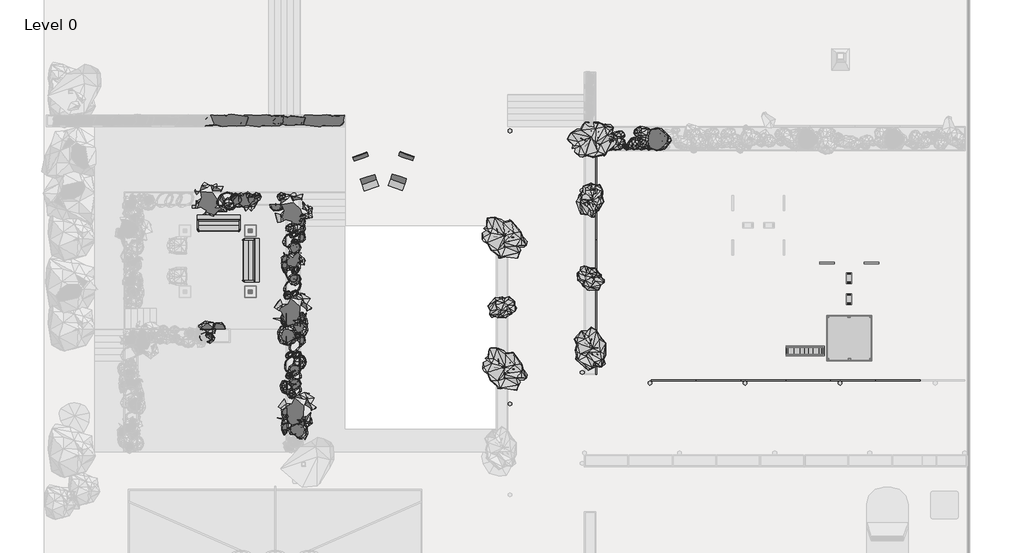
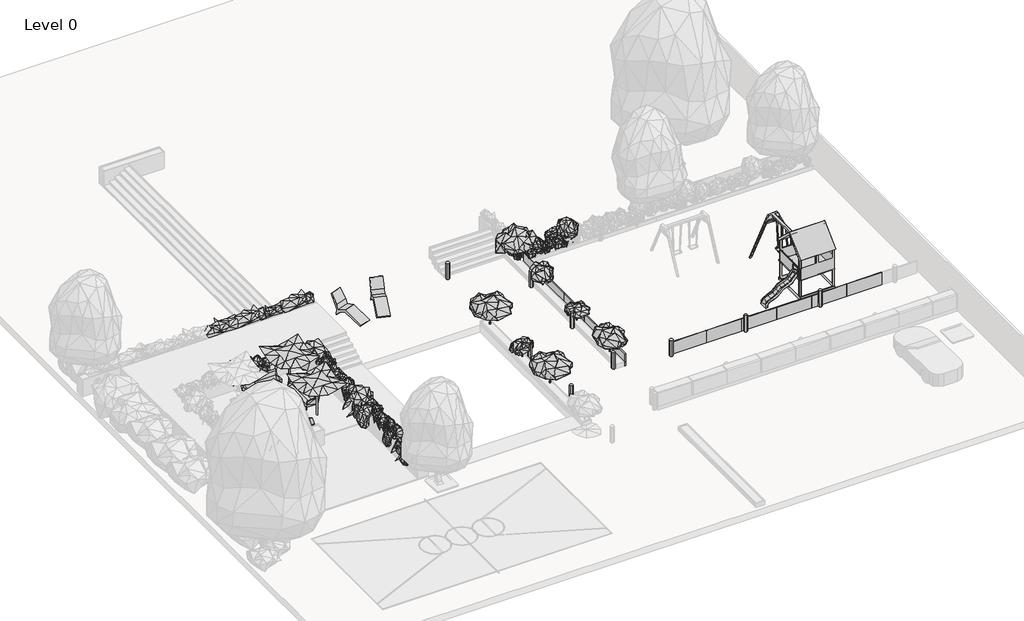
# One storey, part 3 of 4: 112 geographic elements.
"""IFC4 building model written with IfcOpenShell, lengths in millimetres."""

from ifc_helpers import new_model, si_unit, origin, place, context, project, spatial, transform, mapped, element, save
from components import geographic_element_db0a6fd4, geographic_element_18a1116b, geographic_element_f069a1d7, geographic_element_9647795e, geographic_element_b0e9a4e7, geographic_element_ddb3373a, geographic_element_24ad659b, geographic_element_6e40b6ea, geographic_element_a5b1a6e7, geographic_element_4fbb4c08, geographic_element_7a93afb1, geographic_element_6c98dd67, geographic_element_ee225f17, geographic_element_5fc5a5dc, geographic_element_6c620df9, geographic_element_9e3005e0, geographic_element_0ab1632b, geographic_element_002eea6f, geographic_element_5156a3a1, geographic_element_a466647c, geographic_element_3c3fdec1, geographic_element_bd739b93, geographic_element_49e3a4d5, geographic_element_19c87b53, geographic_element_e4e10a39, geographic_element_c9fdac9c, geographic_element_cc1a56ab, geographic_element_ddda1ed9, enscape_assetdefinition_bush_025_fern_enscape_ed9dc602, enscape_assetdefinition_bush_025_fern_enscape_5cccd865, enscape_assetdefinition_bush_025_fern_enscape_c4f5b710, enscape_assetdefinition_fence_005_enscape_assetdefinition_7b85ec42, enscape_assetdefinition_sofa_055_outdoor_enscape_e8bea229

model = new_model("IFC4")

# Units and contexts
model_context = context("Model", 3, world=origin())
ifc_project = project(units=[si_unit("LENGTHUNIT", "METRE", prefix="MILLI")], contexts=[model_context])

# Site, building, storey
site = spatial("IfcSite", under=ifc_project)
building = spatial("IfcBuilding", under=site)
storey = spatial("IfcBuildingStorey", under=building, Name="Level 0", Elevation=0.0)

# Geographic elements
placement = place(None, origin())
geographic_element_shape = geographic_element_db0a6fd4(model_context)
element("IfcGeographicElement", 1, ObjectType="Enscape AssetDefinition - Sunbed 002 : Enscape AssetDefinition - Sunbed 002", at=placement, inside=storey, context=model_context, shape_type="MappedRepresentation", body=[
    mapped(geographic_element_shape, transform((7011.885126, -4118.0511411, 1000.0), x_axis=(0.945518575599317, 0.32556815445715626, 0.0), y_axis=(-0.32556815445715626, 0.945518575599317, 0.0), z_axis=(0.0, 0.0, 1.0))),
])
geographic_element_2_shape = geographic_element_18a1116b(model_context)
element("IfcGeographicElement", 2, ObjectType="Enscape AssetDefinition - Sunshade 002 : Enscape AssetDefinition - Sunshade 002", at=placement, inside=storey, context=model_context, shape_type="MappedRepresentation", body=[
    mapped(geographic_element_2_shape, transform((1942.6806272, -6858.2564752, 100.0), x_axis=(1.0, 0.0, 0.0), y_axis=(0.0, 1.0, 0.0), z_axis=(0.0, 0.0, 1.0))),
])
element("IfcGeographicElement", 3, ObjectType="Enscape AssetDefinition - Sunshade 002 : Enscape AssetDefinition - Sunshade 002", at=placement, inside=storey, context=model_context, shape_type="MappedRepresentation", body=[
    mapped(geographic_element_2_shape, transform((1942.6806272, -9558.2564752, 100.0), x_axis=(1.0, 0.0, 0.0), y_axis=(0.0, 1.0, 0.0), z_axis=(0.0, 0.0, 1.0))),
])
geographic_element_3_shape = geographic_element_f069a1d7(model_context)
element("IfcGeographicElement", 4, ObjectType="Enscape AssetDefinition - Creeper Plant 016 Bower Vine : Enscape AssetDefinition - Creeper Plant 016 Bower Vine", at=placement, inside=storey, context=model_context, shape_type="MappedRepresentation", body=[
    mapped(geographic_element_3_shape, transform((4102.6806272, -6678.2564752, 950.0), x_axis=(0.0, 1.0, 0.0), y_axis=(-1.0, 0.0, 0.0), z_axis=(0.0, 0.0, 1.0))),
])
element("IfcGeographicElement", 5, ObjectType="Enscape AssetDefinition - Creeper Plant 016 Bower Vine : Enscape AssetDefinition - Creeper Plant 016 Bower Vine", at=placement, inside=storey, context=model_context, shape_type="MappedRepresentation", body=[
    mapped(geographic_element_3_shape, transform((3543.1337784, -13818.4130328, 950.0), x_axis=(0.0, -1.0, 0.0), y_axis=(1.0, 0.0, 0.0), z_axis=(0.0, 0.0, 1.0))),
])
geographic_element_4_shape = geographic_element_9647795e(model_context)
element("IfcGeographicElement", 6, ObjectType="Enscape AssetDefinition - Creeper Plant 001 Bower Vine : Enscape AssetDefinition - Creeper Plant 001 Bower Vine", at=placement, inside=storey, context=model_context, shape_type="MappedRepresentation", body=[
    mapped(geographic_element_4_shape, transform((3543.1337784, -10785.5724318, 950.0), x_axis=(0.0, -1.0, 0.0), y_axis=(1.0, 0.0, 0.0), z_axis=(0.0, 0.0, 1.0))),
])
element("IfcGeographicElement", 7, ObjectType="Enscape AssetDefinition - Creeper Plant 001 Bower Vine : Enscape AssetDefinition - Creeper Plant 001 Bower Vine", at=placement, inside=storey, context=model_context, shape_type="MappedRepresentation", body=[
    mapped(geographic_element_4_shape, transform((3593.1337784, -15430.0383331, 950.0), x_axis=(0.0, -1.0, 0.0), y_axis=(1.0, 0.0, 0.0), z_axis=(0.0, 0.0, 1.0))),
])
geographic_element_5_shape = geographic_element_b0e9a4e7(model_context)
element("IfcGeographicElement", 8, ObjectType="Enscape AssetDefinition - Creeper Plant 016 Bower Vine : Enscape AssetDefinition - Creeper Plant 016 Bower Vine 2", at=placement, inside=storey, context=model_context, shape_type="MappedRepresentation", body=[
    mapped(geographic_element_5_shape, transform((4102.6806272, -15678.2564752, 950.0), x_axis=(0.0, 1.0, 0.0), y_axis=(-1.0, 0.0, 0.0), z_axis=(0.0, 0.0, 1.0))),
])
element("IfcGeographicElement", 9, ObjectType="Enscape AssetDefinition - Creeper Plant 016 Bower Vine : Enscape AssetDefinition - Creeper Plant 016 Bower Vine 2", at=placement, inside=storey, context=model_context, shape_type="MappedRepresentation", body=[
    mapped(geographic_element_5_shape, transform((3543.1337784, -11524.7630328, 950.0), x_axis=(0.0, -1.0, 0.0), y_axis=(1.0, 0.0, 0.0), z_axis=(0.0, 0.0, 1.0))),
])
geographic_element_6_shape = geographic_element_ddb3373a(model_context)
element("IfcGeographicElement", 10, ObjectType="Enscape AssetDefinition - Creeper Plant 016 Bower Vine : Enscape AssetDefinition - Creeper Plant 016 Bower Vine 3", at=placement, inside=storey, context=model_context, shape_type="MappedRepresentation", body=[
    mapped(geographic_element_6_shape, transform((4142.6806272, -11124.0478453, 950.0), x_axis=(0.0, 1.0, 0.0), y_axis=(-1.0, 0.0, 0.0), z_axis=(0.0, 0.0, 1.0))),
])
geographic_element_7_shape = geographic_element_24ad659b(model_context)
element("IfcGeographicElement", 11, ObjectType="Enscape AssetDefinition - Creeper Plant 001 Bower Vine : Enscape AssetDefinition - Creeper Plant 001 Bower Vine 3", at=placement, inside=storey, context=model_context, shape_type="MappedRepresentation", body=[
    mapped(geographic_element_7_shape, transform((43.1337784, -11218.4130328, 950.0), x_axis=(1.0, 0.0, 0.0), y_axis=(0.0, 1.0, 0.0), z_axis=(0.0, 0.0, 1.0))),
])
geographic_element_8_shape = geographic_element_6e40b6ea(model_context)
element("IfcGeographicElement", 12, ObjectType="Enscape AssetDefinition - Creeper Plant 028 Ivy : Enscape AssetDefinition - Creeper Plant 028 Ivy", at=placement, inside=storey, context=model_context, shape_type="MappedRepresentation", body=[
    mapped(geographic_element_8_shape, transform((4125.5337784, -15353.0793342, 950.0), x_axis=(0.0, 1.0, 0.0), y_axis=(-1.0, 0.0, 0.0), z_axis=(0.0, 0.0, 1.0))),
])
element("IfcGeographicElement", 13, ObjectType="Enscape AssetDefinition - Creeper Plant 028 Ivy : Enscape AssetDefinition - Creeper Plant 028 Ivy", at=placement, inside=storey, context=model_context, shape_type="MappedRepresentation", body=[
    mapped(geographic_element_8_shape, transform((4125.5337784, -11653.0793342, 950.0), x_axis=(0.0, 1.0, 0.0), y_axis=(-1.0, 0.0, 0.0), z_axis=(0.0, 0.0, 1.0))),
])
element("IfcGeographicElement", 14, ObjectType="Enscape AssetDefinition - Creeper Plant 028 Ivy : Enscape AssetDefinition - Creeper Plant 028 Ivy", at=placement, inside=storey, context=model_context, shape_type="MappedRepresentation", body=[
    mapped(geographic_element_8_shape, transform((4125.5337784, -10753.0793342, 950.0), x_axis=(0.0, 1.0, 0.0), y_axis=(-1.0, 0.0, 0.0), z_axis=(0.0, 0.0, 1.0))),
])
element("IfcGeographicElement", 15, ObjectType="Enscape AssetDefinition - Creeper Plant 028 Ivy : Enscape AssetDefinition - Creeper Plant 028 Ivy", at=placement, inside=storey, context=model_context, shape_type="MappedRepresentation", body=[
    mapped(geographic_element_8_shape, transform((4125.5337784, -7093.0793342, 950.0), x_axis=(0.0, 1.0, 0.0), y_axis=(-1.0, 0.0, 0.0), z_axis=(0.0, 0.0, 1.0))),
])
element("IfcGeographicElement", 16, ObjectType="Enscape AssetDefinition - Creeper Plant 028 Ivy : Enscape AssetDefinition - Creeper Plant 028 Ivy", at=placement, inside=storey, context=model_context, shape_type="MappedRepresentation", body=[
    mapped(geographic_element_8_shape, transform((4125.5337784, -6392.7948635, 950.0), x_axis=(0.0, 1.0, 0.0), y_axis=(-1.0, 0.0, 0.0), z_axis=(0.0, 0.0, 1.0))),
])
element("IfcGeographicElement", 17, ObjectType="Enscape AssetDefinition - Creeper Plant 028 Ivy : Enscape AssetDefinition - Creeper Plant 028 Ivy", at=placement, inside=storey, context=model_context, shape_type="MappedRepresentation", body=[
    mapped(geographic_element_8_shape, transform((3570.710799, -8438.4857043, 950.0), x_axis=(0.0, -1.0, 0.0), y_axis=(1.0, 0.0, 0.0), z_axis=(0.0, 0.0, 1.0))),
])
element("IfcGeographicElement", 18, ObjectType="Enscape AssetDefinition - Creeper Plant 028 Ivy : Enscape AssetDefinition - Creeper Plant 028 Ivy", at=placement, inside=storey, context=model_context, shape_type="MappedRepresentation", body=[
    mapped(geographic_element_8_shape, transform((3570.710799, -8198.4857043, 950.0), x_axis=(0.0, -1.0, 0.0), y_axis=(1.0, 0.0, 0.0), z_axis=(0.0, 0.0, 1.0))),
])
element("IfcGeographicElement", 19, ObjectType="Enscape AssetDefinition - Creeper Plant 028 Ivy : Enscape AssetDefinition - Creeper Plant 028 Ivy", at=placement, inside=storey, context=model_context, shape_type="MappedRepresentation", body=[
    mapped(geographic_element_8_shape, transform((3570.710799, -14958.4857043, 950.0), x_axis=(0.0, -1.0, 0.0), y_axis=(1.0, 0.0, 0.0), z_axis=(0.0, 0.0, 1.0))),
])
element("IfcGeographicElement", 20, ObjectType="Enscape AssetDefinition - Creeper Plant 028 Ivy : Enscape AssetDefinition - Creeper Plant 028 Ivy", at=placement, inside=storey, context=model_context, shape_type="MappedRepresentation", body=[
    mapped(geographic_element_8_shape, transform((3570.710799, -15638.4857043, 950.0), x_axis=(0.0, -1.0, 0.0), y_axis=(1.0, 0.0, 0.0), z_axis=(0.0, 0.0, 1.0))),
])
geographic_element_9_shape = geographic_element_a5b1a6e7(model_context)
element("IfcGeographicElement", 21, ObjectType="Enscape AssetDefinition - Creeper Plant 028 Ivy : Enscape AssetDefinition - Creeper Plant 028 Ivy 2", at=placement, inside=storey, context=model_context, shape_type="MappedRepresentation", body=[
    mapped(geographic_element_9_shape, transform((485.5337784, -11238.4130328, 950.0), x_axis=(-1.0, 0.0, 0.0), y_axis=(0.0, -1.0, 0.0), z_axis=(0.0, 0.0, 1.0))),
])
element("IfcGeographicElement", 22, ObjectType="Enscape AssetDefinition - Creeper Plant 028 Ivy : Enscape AssetDefinition - Creeper Plant 028 Ivy 2", at=placement, inside=storey, context=model_context, shape_type="MappedRepresentation", body=[
    mapped(geographic_element_9_shape, transform((3162.6806272, -5678.2564752, 950.0), x_axis=(1.0, 0.0, 0.0), y_axis=(0.0, 1.0, 0.0), z_axis=(0.0, 0.0, 1.0))),
])
geographic_element_10_shape = geographic_element_4fbb4c08(model_context)
element("IfcGeographicElement", 23, ObjectType="Enscape AssetDefinition - Potted Plant 230 Grapevines : Enscape AssetDefinition - Potted Plant 230 Grapevines 2", at=placement, inside=storey, context=model_context, shape_type="MappedRepresentation", body=[
    mapped(geographic_element_10_shape, transform((3848.1848649, -8152.8860661, 950.0), x_axis=(0.9033719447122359, -0.4288579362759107, 0.0), y_axis=(0.4288579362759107, 0.9033719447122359, 0.0), z_axis=(0.0, 0.0, 1.0))),
])
element("IfcGeographicElement", 24, ObjectType="Enscape AssetDefinition - Potted Plant 230 Grapevines : Enscape AssetDefinition - Potted Plant 230 Grapevines 2", at=placement, inside=storey, context=model_context, shape_type="MappedRepresentation", body=[
    mapped(geographic_element_10_shape, transform((1746.3826611, -5498.9865414, 950.0), x_axis=(0.4163584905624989, -0.9092005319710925, 0.0), y_axis=(0.9092005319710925, 0.4163584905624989, 0.0), z_axis=(0.0, 0.0, 1.0))),
])
geographic_element_11_shape = geographic_element_7a93afb1(model_context)
element("IfcGeographicElement", 25, ObjectType="Enscape AssetDefinition - Potted Plant 230 Grapevines : Enscape AssetDefinition - Potted Plant 230 Grapevines 3", at=placement, inside=storey, context=model_context, shape_type="MappedRepresentation", body=[
    mapped(geographic_element_11_shape, transform((4021.898329, -14803.1139829, 950.0), x_axis=(0.8290375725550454, 0.5591929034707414, 0.0), y_axis=(-0.5591929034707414, 0.8290375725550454, 0.0), z_axis=(0.0, 0.0, 1.0))),
])
element("IfcGeographicElement", 26, ObjectType="Enscape AssetDefinition - Potted Plant 230 Grapevines : Enscape AssetDefinition - Potted Plant 230 Grapevines 3", at=placement, inside=storey, context=model_context, shape_type="MappedRepresentation", body=[
    mapped(geographic_element_11_shape, transform((3831.3771594, -10393.0865529, 950.0), x_axis=(0.8290375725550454, 0.5591929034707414, 0.0), y_axis=(-0.5591929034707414, 0.8290375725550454, 0.0), z_axis=(0.0, 0.0, 1.0))),
])
element("IfcGeographicElement", 27, ObjectType="Enscape AssetDefinition - Potted Plant 230 Grapevines : Enscape AssetDefinition - Potted Plant 230 Grapevines 3", at=placement, inside=storey, context=model_context, shape_type="MappedRepresentation", body=[
    mapped(geographic_element_11_shape, transform((3799.7579314, -5947.5931952, 950.0), x_axis=(0.10452846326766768, 0.9945218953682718, 0.0), y_axis=(-0.9945218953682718, 0.10452846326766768, 0.0), z_axis=(0.0, 0.0, 1.0))),
])
element("IfcGeographicElement", 28, ObjectType="Enscape AssetDefinition - Potted Plant 230 Grapevines : Enscape AssetDefinition - Potted Plant 230 Grapevines 3", at=placement, inside=storey, context=model_context, shape_type="MappedRepresentation", body=[
    mapped(geographic_element_11_shape, transform((131.1517507, -5478.9103716, 950.0), x_axis=(0.3420201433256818, 0.9396926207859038, 0.0), y_axis=(-0.9396926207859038, 0.3420201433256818, 0.0), z_axis=(0.0, 0.0, 1.0))),
])
geographic_element_12_shape = geographic_element_6c98dd67(model_context)
element("IfcGeographicElement", 29, ObjectType="Enscape AssetDefinition - Flower 086 Cross-leaved Heath : Enscape AssetDefinition - Flower 086 Cross-leaved Heath", at=placement, inside=storey, context=model_context, shape_type="MappedRepresentation", body=[
    mapped(geographic_element_12_shape, transform((78.9317055, -11538.2987165, 950.0), x_axis=(1.0, 0.0, 0.0), y_axis=(0.0, 1.0, 0.0), z_axis=(0.0, 0.0, 1.0))),
])
element("IfcGeographicElement", 30, ObjectType="Enscape AssetDefinition - Flower 086 Cross-leaved Heath : Enscape AssetDefinition - Flower 086 Cross-leaved Heath", at=placement, inside=storey, context=model_context, shape_type="MappedRepresentation", body=[
    mapped(geographic_element_12_shape, transform((3765.1159048, -14119.3926801, 950.0), x_axis=(1.0, 0.0, 0.0), y_axis=(0.0, 1.0, 0.0), z_axis=(0.0, 0.0, 1.0))),
])
element("IfcGeographicElement", 31, ObjectType="Enscape AssetDefinition - Flower 086 Cross-leaved Heath : Enscape AssetDefinition - Flower 086 Cross-leaved Heath", at=placement, inside=storey, context=model_context, shape_type="MappedRepresentation", body=[
    mapped(geographic_element_12_shape, transform((2219.6471235, -5354.6036783, 950.0), x_axis=(1.0, 0.0, 0.0), y_axis=(0.0, 1.0, 0.0), z_axis=(0.0, 0.0, 1.0))),
])
element("IfcGeographicElement", 32, ObjectType="Enscape AssetDefinition - Flower 086 Cross-leaved Heath : Enscape AssetDefinition - Flower 086 Cross-leaved Heath", at=placement, inside=storey, context=model_context, shape_type="MappedRepresentation", body=[
    mapped(geographic_element_12_shape, transform((3319.6471235, -5354.6036783, 950.0), x_axis=(1.0, 0.0, 0.0), y_axis=(0.0, 1.0, 0.0), z_axis=(0.0, 0.0, 1.0))),
])
element("IfcGeographicElement", 33, ObjectType="Enscape AssetDefinition - Flower 086 Cross-leaved Heath : Enscape AssetDefinition - Flower 086 Cross-leaved Heath", at=placement, inside=storey, context=model_context, shape_type="MappedRepresentation", body=[
    mapped(geographic_element_12_shape, transform((3698.8660917, -6744.6291536, 950.0), x_axis=(1.0, 0.0, 0.0), y_axis=(0.0, 1.0, 0.0), z_axis=(0.0, 0.0, 1.0))),
])
geographic_element_13_shape = geographic_element_ee225f17(model_context)
element("IfcGeographicElement", 34, ObjectType="Enscape AssetDefinition - Flower 086 Cross-leaved Heath : Enscape AssetDefinition - Flower 086 Cross-leaved Heath 2", at=placement, inside=storey, context=model_context, shape_type="MappedRepresentation", body=[
    mapped(geographic_element_13_shape, transform((3911.1428931, -13651.1638701, 950.0), x_axis=(1.0, 0.0, 0.0), y_axis=(0.0, 1.0, 0.0), z_axis=(0.0, 0.0, 1.0))),
])
element("IfcGeographicElement", 35, ObjectType="Enscape AssetDefinition - Flower 086 Cross-leaved Heath : Enscape AssetDefinition - Flower 086 Cross-leaved Heath 2", at=placement, inside=storey, context=model_context, shape_type="MappedRepresentation", body=[
    mapped(geographic_element_13_shape, transform((3899.7572465, -13017.7775718, 950.0), x_axis=(1.0, 0.0, 0.0), y_axis=(0.0, 1.0, 0.0), z_axis=(0.0, 0.0, 1.0))),
])
element("IfcGeographicElement", 36, ObjectType="Enscape AssetDefinition - Flower 086 Cross-leaved Heath : Enscape AssetDefinition - Flower 086 Cross-leaved Heath 2", at=placement, inside=storey, context=model_context, shape_type="MappedRepresentation", body=[
    mapped(geographic_element_13_shape, transform((3899.7572465, -9009.2174356, 950.0), x_axis=(1.0, 0.0, 0.0), y_axis=(0.0, 1.0, 0.0), z_axis=(0.0, 0.0, 1.0))),
])
element("IfcGeographicElement", 37, ObjectType="Enscape AssetDefinition - Flower 086 Cross-leaved Heath : Enscape AssetDefinition - Flower 086 Cross-leaved Heath 2", at=placement, inside=storey, context=model_context, shape_type="MappedRepresentation", body=[
    mapped(geographic_element_13_shape, transform((3899.7572465, -7609.2174356, 950.0), x_axis=(1.0, 0.0, 0.0), y_axis=(0.0, 1.0, 0.0), z_axis=(0.0, 0.0, 1.0))),
])
element("IfcGeographicElement", 38, ObjectType="Enscape AssetDefinition - Flower 086 Cross-leaved Heath : Enscape AssetDefinition - Flower 086 Cross-leaved Heath 2", at=placement, inside=storey, context=model_context, shape_type="MappedRepresentation", body=[
    mapped(geographic_element_13_shape, transform((1323.3164988, -5492.528017, 950.0), x_axis=(1.0, 0.0, 0.0), y_axis=(0.0, 1.0, 0.0), z_axis=(0.0, 0.0, 1.0))),
])
element("IfcGeographicElement", 39, ObjectType="Enscape AssetDefinition - Flower 086 Cross-leaved Heath : Enscape AssetDefinition - Flower 086 Cross-leaved Heath 2", at=placement, inside=storey, context=model_context, shape_type="MappedRepresentation", body=[
    mapped(geographic_element_13_shape, transform((2023.3164988, -5492.528017, 950.0), x_axis=(1.0, 0.0, 0.0), y_axis=(0.0, 1.0, 0.0), z_axis=(0.0, 0.0, 1.0))),
])
element("IfcGeographicElement", 40, ObjectType="Enscape AssetDefinition - Creeper Plant 015 Bower Vine : Enscape AssetDefinition - Creeper Plant 015 Bower Vine", at=placement, inside=storey, context=model_context, shape_type="MappedRepresentation", body=[
    mapped(geographic_element_4_shape, transform((4142.6806272, -12673.0793342, 950.0), x_axis=(0.0, 1.0, 0.0), y_axis=(-1.0, 0.0, 0.0), z_axis=(0.0, 0.0, 1.0))),
])
element("IfcGeographicElement", 41, ObjectType="Enscape AssetDefinition - Creeper Plant 015 Bower Vine : Enscape AssetDefinition - Creeper Plant 015 Bower Vine", at=placement, inside=storey, context=model_context, shape_type="MappedRepresentation", body=[
    mapped(geographic_element_4_shape, transform((1017.8543256, -5678.2564752, 950.0), x_axis=(1.0, 0.0, 0.0), y_axis=(0.0, 1.0, 0.0), z_axis=(0.0, 0.0, 1.0))),
])
geographic_element_14_shape = geographic_element_5fc5a5dc(model_context)
element("IfcGeographicElement", 42, ObjectType="Enscape AssetDefinition - Creeper Plant 015 Bower Vine : Enscape AssetDefinition - Creeper Plant 015 Bower Vine 3", at=placement, inside=storey, context=model_context, shape_type="MappedRepresentation", body=[
    mapped(geographic_element_14_shape, transform((3593.1337784, -9718.4130328, 950.0), x_axis=(0.0, -1.0, 0.0), y_axis=(1.0, 0.0, 0.0), z_axis=(0.0, 0.0, 1.0))),
])
geographic_element_15_shape = geographic_element_6c620df9(model_context)
element("IfcGeographicElement", 43, ObjectType="Enscape AssetDefinition - Sunbed 002 : Enscape AssetDefinition - Sunbed 002", at=placement, inside=storey, context=model_context, shape_type="MappedRepresentation", body=[
    mapped(geographic_element_15_shape, transform((8663.180286, -4095.5247929, 1000.0), x_axis=(-0.945518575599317, 0.32556815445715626, 0.0), y_axis=(-0.32556815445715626, -0.945518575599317, 0.0), z_axis=(0.0, 0.0, 1.0))),
])
geographic_element_16_shape = geographic_element_9e3005e0(model_context)
element("IfcGeographicElement", 44, ObjectType="Enscape AssetDefinition - Potted Plant 250 Snake Plant : Enscape AssetDefinition - Potted Plant 250 Snake Plant", at=placement, inside=storey, context=model_context, shape_type="MappedRepresentation", body=[
    mapped(geographic_element_16_shape, transform((3683.1337784, -1973.0793342, 950.0), x_axis=(0.0, 1.0, 0.0), y_axis=(-1.0, 0.0, 0.0), z_axis=(0.0, 0.0, 1.0))),
])
geographic_element_17_shape = geographic_element_0ab1632b(model_context)
element("IfcGeographicElement", 45, ObjectType="Enscape AssetDefinition - Play Tower 001 : Enscape AssetDefinition - Play Tower 001", at=placement, inside=storey, context=model_context, shape_type="MappedRepresentation", body=[
    mapped(geographic_element_17_shape, transform((27843.1337784, -10472.1678875, 0.0), x_axis=(0.0, -1.0, 0.0), y_axis=(1.0, 0.0, 0.0), z_axis=(0.0, 0.0, 1.0))),
])
geographic_element_18_shape = geographic_element_002eea6f(model_context)
element("IfcGeographicElement", 46, ObjectType="Enscape AssetDefinition - Evergreen Tree 022 Ficus : Enscape AssetDefinition - Evergreen Tree 022 Ficus", at=placement, inside=storey, context=model_context, shape_type="MappedRepresentation", body=[
    mapped(geographic_element_18_shape, transform((17006.6337784, -12033.0793342, 220.0), x_axis=(1.0, 0.0, 0.0), y_axis=(0.0, 1.0, 0.0), z_axis=(0.0, 0.0, 1.0))),
])
geographic_element_19_shape = geographic_element_5156a3a1(model_context)
element("IfcGeographicElement", 47, ObjectType="Enscape AssetDefinition - Evergreen Tree 022 Ficus : Enscape AssetDefinition - Evergreen Tree 022 Ficus 2", at=placement, inside=storey, context=model_context, shape_type="MappedRepresentation", body=[
    mapped(geographic_element_19_shape, transform((13121.5217891, -12926.3390254, 220.0), x_axis=(0.8024646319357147, 0.5966996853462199, 0.0), y_axis=(-0.5966996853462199, 0.8024646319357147, 0.0), z_axis=(0.0, 0.0, 1.0))),
])
element("IfcGeographicElement", 48, ObjectType="Enscape AssetDefinition - Evergreen Tree 022 Ficus : Enscape AssetDefinition - Evergreen Tree 022 Ficus 2", at=placement, inside=storey, context=model_context, shape_type="MappedRepresentation", body=[
    mapped(geographic_element_19_shape, transform((13092.4012576, -7115.0835258, 220.0), x_axis=(0.7547095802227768, 0.6560590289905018, 0.0), y_axis=(-0.6560590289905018, 0.7547095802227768, 0.0), z_axis=(0.0, 0.0, 1.0))),
])
element("IfcGeographicElement", 49, ObjectType="Enscape AssetDefinition - Evergreen Tree 022 Ficus : Enscape AssetDefinition - Evergreen Tree 022 Ficus 2", at=placement, inside=storey, context=model_context, shape_type="MappedRepresentation", body=[
    mapped(geographic_element_19_shape, transform((17006.6337784, -2829.2334929, 220.0), x_axis=(0.0, 1.0, 0.0), y_axis=(-1.0, 0.0, 0.0), z_axis=(0.0, 0.0, 1.0))),
])
geographic_element_20_shape = geographic_element_a466647c(model_context)
element("IfcGeographicElement", 50, ObjectType="Enscape AssetDefinition - Evergreen Tree 022 Ficus : Enscape AssetDefinition - Evergreen Tree 022 Ficus 3", at=placement, inside=storey, context=model_context, shape_type="MappedRepresentation", body=[
    mapped(geographic_element_20_shape, transform((13142.6806272, -10255.4011406, 220.0), x_axis=(0.0, -1.0, 0.0), y_axis=(1.0, 0.0, 0.0), z_axis=(0.0, 0.0, 1.0))),
])
element("IfcGeographicElement", 51, ObjectType="Enscape AssetDefinition - Evergreen Tree 022 Ficus : Enscape AssetDefinition - Evergreen Tree 022 Ficus 3", at=placement, inside=storey, context=model_context, shape_type="MappedRepresentation", body=[
    mapped(geographic_element_20_shape, transform((16965.4948708, -8940.5931478, 220.0), x_axis=(0.7439594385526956, 0.6682247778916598, 0.0), y_axis=(-0.6682247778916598, 0.7439594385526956, 0.0), z_axis=(0.0, 0.0, 1.0))),
])
geographic_element_21_shape = geographic_element_3c3fdec1(model_context)
element("IfcGeographicElement", 52, ObjectType="Enscape AssetDefinition - Evergreen Tree 022 Ficus : Enscape AssetDefinition - Evergreen Tree 022 Ficus 4", at=placement, inside=storey, context=model_context, shape_type="MappedRepresentation", body=[
    mapped(geographic_element_21_shape, transform((17034.6929983, -5439.4621419, 220.0), x_axis=(0.8746197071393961, -0.48480962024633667, 0.0), y_axis=(0.48480962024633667, 0.8746197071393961, 0.0), z_axis=(0.0, 0.0, 1.0))),
])
geographic_element_22_shape = geographic_element_bd739b93(model_context)
element("IfcGeographicElement", 53, ObjectType="Enscape AssetDefinition - Bush 132 Rose of Sharon : Enscape AssetDefinition - Bush 132 Rose of Sharon", at=placement, inside=storey, context=model_context, shape_type="MappedRepresentation", body=[
    mapped(geographic_element_22_shape, transform((19972.0623905, -2776.8168145, 220.0), x_axis=(1.0, 0.0, 0.0), y_axis=(0.0, 1.0, 0.0), z_axis=(0.0, 0.0, 1.0))),
])
geographic_element_23_shape = geographic_element_49e3a4d5(model_context)
element("IfcGeographicElement", 54, ObjectType="Enscape AssetDefinition - Flower 006 Chinese Violet : Enscape AssetDefinition - Flower 006 Chinese Violet 3", at=placement, inside=storey, context=model_context, shape_type="MappedRepresentation", body=[
    mapped(geographic_element_23_shape, transform((19972.0623905, -2885.7722824, 220.0), x_axis=(1.0, 0.0, 0.0), y_axis=(0.0, 1.0, 0.0), z_axis=(0.0, 0.0, 1.0))),
])
geographic_element_24_shape = geographic_element_19c87b53(model_context)
element("IfcGeographicElement", 55, ObjectType="Enscape AssetDefinition - Bush 135 Rose of Sharon : Enscape AssetDefinition - Bush 135 Rose of Sharon 3", at=placement, inside=storey, context=model_context, shape_type="MappedRepresentation", body=[
    mapped(geographic_element_24_shape, transform((18129.1865545, -2919.4849453, 220.0), x_axis=(1.0, 0.0, 0.0), y_axis=(0.0, 1.0, 0.0), z_axis=(0.0, 0.0, 1.0))),
])
geographic_element_25_shape = geographic_element_e4e10a39(model_context)
element("IfcGeographicElement", 56, ObjectType="Enscape AssetDefinition - Bush 135 Rose of Sharon : Enscape AssetDefinition - Bush 135 Rose of Sharon 4", at=placement, inside=storey, context=model_context, shape_type="MappedRepresentation", body=[
    mapped(geographic_element_25_shape, transform((18948.1337784, -2977.2750228, 220.0), x_axis=(1.0, 0.0, 0.0), y_axis=(0.0, 1.0, 0.0), z_axis=(0.0, 0.0, 1.0))),
])
geographic_element_26_shape = geographic_element_c9fdac9c(model_context)
element("IfcGeographicElement", 57, ObjectType="Enscape AssetDefinition - Pathway Lamp 002 : Enscape AssetDefinition - Pathway Lamp 002", at=placement, inside=storey, context=model_context, shape_type="MappedRepresentation", body=[
    mapped(geographic_element_26_shape, transform((13443.1337784, -2433.0793342, 0.0), x_axis=(0.0, 1.0, 0.0), y_axis=(-1.0, 0.0, 0.0), z_axis=(0.0, 0.0, 1.0))),
])
element("IfcGeographicElement", 58, ObjectType="Enscape AssetDefinition - Pathway Lamp 002 : Enscape AssetDefinition - Pathway Lamp 002", at=placement, inside=storey, context=model_context, shape_type="MappedRepresentation", body=[
    mapped(geographic_element_26_shape, transform((13443.1337784, -6466.4126675, 0.0), x_axis=(0.0, 1.0, 0.0), y_axis=(-1.0, 0.0, 0.0), z_axis=(0.0, 0.0, 1.0))),
])
element("IfcGeographicElement", 59, ObjectType="Enscape AssetDefinition - Pathway Lamp 002 : Enscape AssetDefinition - Pathway Lamp 002", at=placement, inside=storey, context=model_context, shape_type="MappedRepresentation", body=[
    mapped(geographic_element_26_shape, transform((13443.1337784, -10499.7460008, 0.0), x_axis=(0.0, 1.0, 0.0), y_axis=(-1.0, 0.0, 0.0), z_axis=(0.0, 0.0, 1.0))),
])
element("IfcGeographicElement", 60, ObjectType="Enscape AssetDefinition - Pathway Lamp 002 : Enscape AssetDefinition - Pathway Lamp 002", at=placement, inside=storey, context=model_context, shape_type="MappedRepresentation", body=[
    mapped(geographic_element_26_shape, transform((13443.1337784, -14533.0793342, 0.0), x_axis=(0.0, 1.0, 0.0), y_axis=(-1.0, 0.0, 0.0), z_axis=(0.0, 0.0, 1.0))),
])
geographic_element_27_shape = geographic_element_cc1a56ab(model_context)
element("IfcGeographicElement", 61, ObjectType="Enscape AssetDefinition - Pathway Lamp 002 : Enscape AssetDefinition - Pathway Lamp 002", at=placement, inside=storey, context=model_context, shape_type="MappedRepresentation", body=[
    mapped(geographic_element_27_shape, transform((16643.1337784, -5070.823008, 0.0), x_axis=(0.0, 1.0, 0.0), y_axis=(-1.0, 0.0, 0.0), z_axis=(0.0, 0.0, 1.0))),
])
element("IfcGeographicElement", 62, ObjectType="Enscape AssetDefinition - Pathway Lamp 002 : Enscape AssetDefinition - Pathway Lamp 002", at=placement, inside=storey, context=model_context, shape_type="MappedRepresentation", body=[
    mapped(geographic_element_27_shape, transform((16643.1337784, -9104.1563413, 0.0), x_axis=(0.0, 1.0, 0.0), y_axis=(-1.0, 0.0, 0.0), z_axis=(0.0, 0.0, 1.0))),
])
element("IfcGeographicElement", 63, ObjectType="Enscape AssetDefinition - Pathway Lamp 002 : Enscape AssetDefinition - Pathway Lamp 002", at=placement, inside=storey, context=model_context, shape_type="MappedRepresentation", body=[
    mapped(geographic_element_27_shape, transform((16643.1337784, -13137.4896747, 0.0), x_axis=(0.0, 1.0, 0.0), y_axis=(-1.0, 0.0, 0.0), z_axis=(0.0, 0.0, 1.0))),
])
element("IfcGeographicElement", 64, ObjectType="Enscape AssetDefinition - Pathway Lamp 002 : Enscape AssetDefinition - Pathway Lamp 002", at=placement, inside=storey, context=model_context, shape_type="MappedRepresentation", body=[
    mapped(geographic_element_27_shape, transform((19643.1337784, -13612.7158507, 0.0), x_axis=(0.0, -1.0, 0.0), y_axis=(1.0, 0.0, 0.0), z_axis=(0.0, 0.0, 1.0))),
])
element("IfcGeographicElement", 65, ObjectType="Enscape AssetDefinition - Pathway Lamp 002 : Enscape AssetDefinition - Pathway Lamp 002", at=placement, inside=storey, context=model_context, shape_type="MappedRepresentation", body=[
    mapped(geographic_element_27_shape, transform((23855.6337784, -13612.7158507, 0.0), x_axis=(0.0, -1.0, 0.0), y_axis=(1.0, 0.0, 0.0), z_axis=(0.0, 0.0, 1.0))),
])
element("IfcGeographicElement", 66, ObjectType="Enscape AssetDefinition - Pathway Lamp 002 : Enscape AssetDefinition - Pathway Lamp 002", at=placement, inside=storey, context=model_context, shape_type="MappedRepresentation", body=[
    mapped(geographic_element_27_shape, transform((28068.1337784, -13612.7158507, 0.0), x_axis=(0.0, -1.0, 0.0), y_axis=(1.0, 0.0, 0.0), z_axis=(0.0, 0.0, 1.0))),
])
geographic_element_28_shape = geographic_element_ddda1ed9(model_context)
element("IfcGeographicElement", 67, ObjectType="Enscape AssetDefinition - Potted Plant 250 Snake Plant : Enscape AssetDefinition - Potted Plant 250 Snake Plant 2", at=placement, inside=storey, context=model_context, shape_type="MappedRepresentation", body=[
    mapped(geographic_element_28_shape, transform((5143.1337784, -1973.0793342, 950.0), x_axis=(0.0, -1.0, 0.0), y_axis=(1.0, 0.0, 0.0), z_axis=(0.0, 0.0, 1.0))),
])
element("IfcGeographicElement", 68, ObjectType="Enscape AssetDefinition - Potted Plant 250 Snake Plant : Enscape AssetDefinition - Potted Plant 250 Snake Plant 2", at=placement, inside=storey, context=model_context, shape_type="MappedRepresentation", body=[
    mapped(geographic_element_28_shape, transform((2463.1337784, -1973.0793342, 950.0), x_axis=(0.0, -1.0, 0.0), y_axis=(1.0, 0.0, 0.0), z_axis=(0.0, 0.0, 1.0))),
])
element("IfcGeographicElement", 69, ObjectType="Enscape AssetDefinition - Potted Plant 250 Snake Plant : Enscape AssetDefinition - Potted Plant 250 Snake Plant 2", at=placement, inside=storey, context=model_context, shape_type="MappedRepresentation", body=[
    mapped(geographic_element_28_shape, transform((906.1337784, -1973.0793342, 950.0), x_axis=(0.0, 1.0, 0.0), y_axis=(-1.0, 0.0, 0.0), z_axis=(0.0, 0.0, 1.0))),
])
enscape_assetdefinition_bush_025_fern_enscape_shape = enscape_assetdefinition_bush_025_fern_enscape_ed9dc602(model_context)
element("IfcGeographicElement", 70, ObjectType="Enscape AssetDefinition - Bush 025 Fern : Enscape AssetDefinition - Bush 025 Fern 2", at=placement, inside=storey, context=model_context, shape_type="MappedRepresentation", body=[
    mapped(enscape_assetdefinition_bush_025_fern_enscape_shape, transform((3991.423263, -12374.43153, 761.4393554), x_axis=(-0.7660444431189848, -0.6427876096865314, 0.0), y_axis=(0.6427876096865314, -0.7660444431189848, 0.0), z_axis=(0.0, 0.0, 1.0))),
])
element("IfcGeographicElement", 71, ObjectType="Enscape AssetDefinition - Bush 025 Fern : Enscape AssetDefinition - Bush 025 Fern 2", at=placement, inside=storey, context=model_context, shape_type="MappedRepresentation", body=[
    mapped(enscape_assetdefinition_bush_025_fern_enscape_shape, transform((3684.9823695, -13261.3435808, 761.4393554), x_axis=(-0.7660444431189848, -0.6427876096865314, 0.0), y_axis=(0.6427876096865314, -0.7660444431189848, 0.0), z_axis=(0.0, 0.0, 1.0))),
])
element("IfcGeographicElement", 72, ObjectType="Enscape AssetDefinition - Bush 025 Fern : Enscape AssetDefinition - Bush 025 Fern 2", at=placement, inside=storey, context=model_context, shape_type="MappedRepresentation", body=[
    mapped(enscape_assetdefinition_bush_025_fern_enscape_shape, transform((3684.9823695, -12361.3435808, 761.4393554), x_axis=(-0.7660444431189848, -0.6427876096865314, 0.0), y_axis=(0.6427876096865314, -0.7660444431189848, 0.0), z_axis=(0.0, 0.0, 1.0))),
])
element("IfcGeographicElement", 73, ObjectType="Enscape AssetDefinition - Bush 025 Fern : Enscape AssetDefinition - Bush 025 Fern 2", at=placement, inside=storey, context=model_context, shape_type="MappedRepresentation", body=[
    mapped(enscape_assetdefinition_bush_025_fern_enscape_shape, transform((4011.2599127, -11517.5615725, 761.4393554), x_axis=(-0.7660444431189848, -0.6427876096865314, 0.0), y_axis=(0.6427876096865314, -0.7660444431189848, 0.0), z_axis=(0.0, 0.0, 1.0))),
])
element("IfcGeographicElement", 74, ObjectType="Enscape AssetDefinition - Bush 025 Fern : Enscape AssetDefinition - Bush 025 Fern 2", at=placement, inside=storey, context=model_context, shape_type="MappedRepresentation", body=[
    mapped(enscape_assetdefinition_bush_025_fern_enscape_shape, transform((3854.2121775, -7020.3028509, 761.4393554), x_axis=(-0.7660444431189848, -0.6427876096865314, 0.0), y_axis=(0.6427876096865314, -0.7660444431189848, 0.0), z_axis=(0.0, 0.0, 1.0))),
])
element("IfcGeographicElement", 75, ObjectType="Enscape AssetDefinition - Bush 025 Fern : Enscape AssetDefinition - Bush 025 Fern 2", at=placement, inside=storey, context=model_context, shape_type="MappedRepresentation", body=[
    mapped(enscape_assetdefinition_bush_025_fern_enscape_shape, transform((3925.7060569, -8613.2778244, 761.4393554), x_axis=(-0.438371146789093, -0.8987940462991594, 0.0), y_axis=(0.8987940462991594, -0.438371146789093, 0.0), z_axis=(0.0, 0.0, 1.0))),
])
element("IfcGeographicElement", 76, ObjectType="Enscape AssetDefinition - Bush 025 Fern : Enscape AssetDefinition - Bush 025 Fern 2", at=placement, inside=storey, context=model_context, shape_type="MappedRepresentation", body=[
    mapped(enscape_assetdefinition_bush_025_fern_enscape_shape, transform((1223.7558855, -5366.8469186, 761.4393554), x_axis=(-0.7660444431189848, -0.6427876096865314, 0.0), y_axis=(0.6427876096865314, -0.7660444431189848, 0.0), z_axis=(0.0, 0.0, 1.0))),
])
element("IfcGeographicElement", 77, ObjectType="Enscape AssetDefinition - Bush 025 Fern : Enscape AssetDefinition - Bush 025 Fern 2", at=placement, inside=storey, context=model_context, shape_type="MappedRepresentation", body=[
    mapped(enscape_assetdefinition_bush_025_fern_enscape_shape, transform((3939.1166196, -7413.0179973, 761.4393554), x_axis=(0.64278760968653, -0.7660444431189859, 0.0), y_axis=(0.7660444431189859, 0.64278760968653, 0.0), z_axis=(0.0, 0.0, 1.0))),
])
element("IfcGeographicElement", 78, ObjectType="Enscape AssetDefinition - Bush 025 Fern : Enscape AssetDefinition - Bush 025 Fern 2", at=placement, inside=storey, context=model_context, shape_type="MappedRepresentation", body=[
    mapped(enscape_assetdefinition_bush_025_fern_enscape_shape, transform((3873.3248486, -9667.9206451, 761.4393554), x_axis=(-0.7660444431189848, -0.6427876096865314, 0.0), y_axis=(0.6427876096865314, -0.7660444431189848, 0.0), z_axis=(0.0, 0.0, 1.0))),
])
element("IfcGeographicElement", 79, ObjectType="Enscape AssetDefinition - Bush 025 Fern : Enscape AssetDefinition - Bush 025 Fern 2", at=placement, inside=storey, context=model_context, shape_type="MappedRepresentation", body=[
    mapped(enscape_assetdefinition_bush_025_fern_enscape_shape, transform((18694.1182317, -3117.4693225, 95.8966531), x_axis=(0.8746197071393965, 0.4848096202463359, 0.0), y_axis=(-0.4848096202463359, 0.8746197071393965, 0.0), z_axis=(0.0, 0.0, 1.0))),
])
element("IfcGeographicElement", 80, ObjectType="Enscape AssetDefinition - Bush 025 Fern : Enscape AssetDefinition - Bush 025 Fern 2", at=placement, inside=storey, context=model_context, shape_type="MappedRepresentation", body=[
    mapped(enscape_assetdefinition_bush_025_fern_enscape_shape, transform((18337.0350358, -2987.5016681, 95.8966531), x_axis=(-0.48480962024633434, 0.8746197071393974, 0.0), y_axis=(-0.8746197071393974, -0.48480962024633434, 0.0), z_axis=(0.0, 0.0, 1.0))),
])
element("IfcGeographicElement", 81, ObjectType="Enscape AssetDefinition - Bush 025 Fern : Enscape AssetDefinition - Bush 025 Fern 2", at=placement, inside=storey, context=model_context, shape_type="MappedRepresentation", body=[
    mapped(enscape_assetdefinition_bush_025_fern_enscape_shape, transform((19674.1182317, -3117.4693225, 95.8966531), x_axis=(0.8746197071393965, 0.4848096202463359, 0.0), y_axis=(-0.4848096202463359, 0.8746197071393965, 0.0), z_axis=(0.0, 0.0, 1.0))),
])
element("IfcGeographicElement", 82, ObjectType="Enscape AssetDefinition - Bush 025 Fern : Enscape AssetDefinition - Bush 025 Fern 2", at=placement, inside=storey, context=model_context, shape_type="MappedRepresentation", body=[
    mapped(enscape_assetdefinition_bush_025_fern_enscape_shape, transform((17477.0350358, -2987.5016681, 95.8966531), x_axis=(-0.48480962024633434, 0.8746197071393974, 0.0), y_axis=(-0.8746197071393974, -0.48480962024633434, 0.0), z_axis=(0.0, 0.0, 1.0))),
])
element("IfcGeographicElement", 83, ObjectType="Enscape AssetDefinition - Bush 025 Fern : Enscape AssetDefinition - Bush 025 Fern 2", at=placement, inside=storey, context=model_context, shape_type="MappedRepresentation", body=[
    mapped(enscape_assetdefinition_bush_025_fern_enscape_shape, transform((16979.3503138, -2452.4373937, 220.0), x_axis=(-0.48480962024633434, 0.8746197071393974, 0.0), y_axis=(-0.8746197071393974, -0.48480962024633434, 0.0), z_axis=(0.0, 0.0, 1.0))),
])
element("IfcGeographicElement", 84, ObjectType="Enscape AssetDefinition - Bush 025 Fern : Enscape AssetDefinition - Bush 025 Fern 2", at=placement, inside=storey, context=model_context, shape_type="MappedRepresentation", body=[
    mapped(enscape_assetdefinition_bush_025_fern_enscape_shape, transform((17109.3179682, -2809.5205896, 220.0), x_axis=(-0.48480962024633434, 0.8746197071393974, 0.0), y_axis=(-0.8746197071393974, -0.48480962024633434, 0.0), z_axis=(0.0, 0.0, 1.0))),
])
element("IfcGeographicElement", 85, ObjectType="Enscape AssetDefinition - Bush 025 Fern : Enscape AssetDefinition - Bush 025 Fern 2", at=placement, inside=storey, context=model_context, shape_type="MappedRepresentation", body=[
    mapped(enscape_assetdefinition_bush_025_fern_enscape_shape, transform((17099.3467492, -2906.1131722, 95.8966531), x_axis=(-0.48480962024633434, 0.8746197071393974, 0.0), y_axis=(-0.8746197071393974, -0.48480962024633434, 0.0), z_axis=(0.0, 0.0, 1.0))),
])
element("IfcGeographicElement", 86, ObjectType="Enscape AssetDefinition - Bush 025 Fern : Enscape AssetDefinition - Bush 025 Fern 2", at=placement, inside=storey, context=model_context, shape_type="MappedRepresentation", body=[
    mapped(enscape_assetdefinition_bush_025_fern_enscape_shape, transform((18039.7829739, -2822.4436592, 220.0), x_axis=(-0.48480962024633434, 0.8746197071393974, 0.0), y_axis=(-0.8746197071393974, -0.48480962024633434, 0.0), z_axis=(0.0, 0.0, 1.0))),
])
enscape_assetdefinition_bush_025_fern_enscape_2_shape = enscape_assetdefinition_bush_025_fern_enscape_5cccd865(model_context)
element("IfcGeographicElement", 87, ObjectType="Enscape AssetDefinition - Bush 025 Fern : Enscape AssetDefinition - Bush 025 Fern 3", at=placement, inside=storey, context=model_context, shape_type="MappedRepresentation", body=[
    mapped(enscape_assetdefinition_bush_025_fern_enscape_2_shape, transform((11.1297599, -11584.698231, 761.4393554), x_axis=(-1.0, 0.0, 0.0), y_axis=(0.0, -1.0, 0.0), z_axis=(0.0, 0.0, 1.0))),
])
element("IfcGeographicElement", 88, ObjectType="Enscape AssetDefinition - Bush 025 Fern : Enscape AssetDefinition - Bush 025 Fern 3", at=placement, inside=storey, context=model_context, shape_type="MappedRepresentation", body=[
    mapped(enscape_assetdefinition_bush_025_fern_enscape_2_shape, transform((3897.7636366, -13374.7470511, 761.4393554), x_axis=(-0.4569374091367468, -0.8894988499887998, 0.0), y_axis=(0.8894988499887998, -0.4569374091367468, 0.0), z_axis=(0.0, 0.0, 1.0))),
])
element("IfcGeographicElement", 89, ObjectType="Enscape AssetDefinition - Bush 025 Fern : Enscape AssetDefinition - Bush 025 Fern 3", at=placement, inside=storey, context=model_context, shape_type="MappedRepresentation", body=[
    mapped(enscape_assetdefinition_bush_025_fern_enscape_2_shape, transform((3897.7636366, -11974.7470511, 761.4393554), x_axis=(-0.4569374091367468, -0.8894988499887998, 0.0), y_axis=(0.8894988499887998, -0.4569374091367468, 0.0), z_axis=(0.0, 0.0, 1.0))),
])
element("IfcGeographicElement", 90, ObjectType="Enscape AssetDefinition - Bush 025 Fern : Enscape AssetDefinition - Bush 025 Fern 3", at=placement, inside=storey, context=model_context, shape_type="MappedRepresentation", body=[
    mapped(enscape_assetdefinition_bush_025_fern_enscape_2_shape, transform((3897.7636366, -13974.7470511, 761.4393554), x_axis=(-0.4569374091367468, -0.8894988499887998, 0.0), y_axis=(0.8894988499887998, -0.4569374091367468, 0.0), z_axis=(0.0, 0.0, 1.0))),
])
element("IfcGeographicElement", 91, ObjectType="Enscape AssetDefinition - Bush 025 Fern : Enscape AssetDefinition - Bush 025 Fern 3", at=placement, inside=storey, context=model_context, shape_type="MappedRepresentation", body=[
    mapped(enscape_assetdefinition_bush_025_fern_enscape_2_shape, transform((3773.0515292, -8851.1860621, 761.4393554), x_axis=(0.64278760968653, -0.7660444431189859, 0.0), y_axis=(0.7660444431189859, 0.64278760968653, 0.0), z_axis=(0.0, 0.0, 1.0))),
])
element("IfcGeographicElement", 92, ObjectType="Enscape AssetDefinition - Bush 025 Fern : Enscape AssetDefinition - Bush 025 Fern 3", at=placement, inside=storey, context=model_context, shape_type="MappedRepresentation", body=[
    mapped(enscape_assetdefinition_bush_025_fern_enscape_2_shape, transform((19386.0097323, -3013.0976001, 95.8966531), x_axis=(0.8746197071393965, 0.4848096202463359, 0.0), y_axis=(-0.4848096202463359, 0.8746197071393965, 0.0), z_axis=(0.0, 0.0, 1.0))),
])
element("IfcGeographicElement", 93, ObjectType="Enscape AssetDefinition - Bush 025 Fern : Enscape AssetDefinition - Bush 025 Fern 3", at=placement, inside=storey, context=model_context, shape_type="MappedRepresentation", body=[
    mapped(enscape_assetdefinition_bush_025_fern_enscape_2_shape, transform((18226.0957475, -2674.1358525, 220.0), x_axis=(0.8746197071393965, 0.4848096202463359, 0.0), y_axis=(-0.4848096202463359, 0.8746197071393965, 0.0), z_axis=(0.0, 0.0, 1.0))),
])
element("IfcGeographicElement", 94, ObjectType="Enscape AssetDefinition - Bush 025 Fern : Enscape AssetDefinition - Bush 025 Fern 3", at=placement, inside=storey, context=model_context, shape_type="MappedRepresentation", body=[
    mapped(enscape_assetdefinition_bush_025_fern_enscape_2_shape, transform((17857.8096091, -3069.9116425, 95.8966531), x_axis=(0.8746197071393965, 0.4848096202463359, 0.0), y_axis=(-0.4848096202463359, 0.8746197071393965, 0.0), z_axis=(0.0, 0.0, 1.0))),
])
enscape_assetdefinition_bush_025_fern_enscape_3_shape = enscape_assetdefinition_bush_025_fern_enscape_c4f5b710(model_context)
element("IfcGeographicElement", 95, ObjectType="Enscape AssetDefinition - Bush 025 Fern : Enscape AssetDefinition - Bush 025 Fern 4", at=placement, inside=storey, context=model_context, shape_type="MappedRepresentation", body=[
    mapped(enscape_assetdefinition_bush_025_fern_enscape_3_shape, transform((3758.1732372, -12779.3134134, 608.6967746), x_axis=(-0.4569374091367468, -0.8894988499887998, 0.0), y_axis=(0.8894988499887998, -0.4569374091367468, 0.0), z_axis=(0.0, 0.0, 1.0))),
])
element("IfcGeographicElement", 96, ObjectType="Enscape AssetDefinition - Bush 025 Fern : Enscape AssetDefinition - Bush 025 Fern 4", at=placement, inside=storey, context=model_context, shape_type="MappedRepresentation", body=[
    mapped(enscape_assetdefinition_bush_025_fern_enscape_3_shape, transform((3765.3497321, -9350.4401222, 608.6967746), x_axis=(-0.7660444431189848, -0.6427876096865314, 0.0), y_axis=(0.6427876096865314, -0.7660444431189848, 0.0), z_axis=(0.0, 0.0, 1.0))),
])
element("IfcGeographicElement", 97, ObjectType="Enscape AssetDefinition - Bush 025 Fern : Enscape AssetDefinition - Bush 025 Fern 4", at=placement, inside=storey, context=model_context, shape_type="MappedRepresentation", body=[
    mapped(enscape_assetdefinition_bush_025_fern_enscape_3_shape, transform((807.7049546, -5488.7602816, 608.6967746), x_axis=(-0.7660444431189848, -0.6427876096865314, 0.0), y_axis=(0.6427876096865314, -0.7660444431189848, 0.0), z_axis=(0.0, 0.0, 1.0))),
])
element("IfcGeographicElement", 98, ObjectType="Enscape AssetDefinition - Bush 025 Fern : Enscape AssetDefinition - Bush 025 Fern 4", at=placement, inside=storey, context=model_context, shape_type="MappedRepresentation", body=[
    mapped(enscape_assetdefinition_bush_025_fern_enscape_3_shape, transform((3737.7353329, -7260.8123798, 608.6967746), x_axis=(-0.7660444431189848, -0.6427876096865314, 0.0), y_axis=(0.6427876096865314, -0.7660444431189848, 0.0), z_axis=(0.0, 0.0, 1.0))),
])
element("IfcGeographicElement", 99, ObjectType="Enscape AssetDefinition - Bush 025 Fern : Enscape AssetDefinition - Bush 025 Fern 4", at=placement, inside=storey, context=model_context, shape_type="MappedRepresentation", body=[
    mapped(enscape_assetdefinition_bush_025_fern_enscape_3_shape, transform((19369.7006743, -2541.8156107, 67.2574192), x_axis=(1.0, 0.0, 0.0), y_axis=(0.0, 1.0, 0.0), z_axis=(0.0, 0.0, 1.0))),
])
enscape_assetdefinition_fence_005_enscape_assetdefinition_shape = enscape_assetdefinition_fence_005_enscape_assetdefinition_7b85ec42(model_context)
element("IfcGeographicElement", 100, ObjectType="Enscape AssetDefinition - Fence 005 : Enscape AssetDefinition - Fence 005", at=placement, inside=storey, context=model_context, shape_type="MappedRepresentation", body=[
    mapped(enscape_assetdefinition_fence_005_enscape_assetdefinition_shape, transform((30614.7525619, -13510.1700687, 0.0), x_axis=(1.0, 0.0, 0.0), y_axis=(0.0, 1.0, 0.0), z_axis=(0.0, 0.0, 1.0))),
])
element("IfcGeographicElement", 101, ObjectType="Enscape AssetDefinition - Fence 005 : Enscape AssetDefinition - Fence 005", at=placement, inside=storey, context=model_context, shape_type="MappedRepresentation", body=[
    mapped(enscape_assetdefinition_fence_005_enscape_assetdefinition_shape, transform((28629.7525619, -13510.1700687, 0.0), x_axis=(1.0, 0.0, 0.0), y_axis=(0.0, 1.0, 0.0), z_axis=(0.0, 0.0, 1.0))),
])
element("IfcGeographicElement", 102, ObjectType="Enscape AssetDefinition - Fence 005 : Enscape AssetDefinition - Fence 005", at=placement, inside=storey, context=model_context, shape_type="MappedRepresentation", body=[
    mapped(enscape_assetdefinition_fence_005_enscape_assetdefinition_shape, transform((26643.7228121, -13510.1700687, 0.0), x_axis=(1.0, 0.0, 0.0), y_axis=(0.0, 1.0, 0.0), z_axis=(0.0, 0.0, 1.0))),
])
element("IfcGeographicElement", 103, ObjectType="Enscape AssetDefinition - Fence 005 : Enscape AssetDefinition - Fence 005", at=placement, inside=storey, context=model_context, shape_type="MappedRepresentation", body=[
    mapped(enscape_assetdefinition_fence_005_enscape_assetdefinition_shape, transform((24658.7228121, -13510.1700687, 0.0), x_axis=(1.0, 0.0, 0.0), y_axis=(0.0, 1.0, 0.0), z_axis=(0.0, 0.0, 1.0))),
])
element("IfcGeographicElement", 104, ObjectType="Enscape AssetDefinition - Fence 005 : Enscape AssetDefinition - Fence 005", at=placement, inside=storey, context=model_context, shape_type="MappedRepresentation", body=[
    mapped(enscape_assetdefinition_fence_005_enscape_assetdefinition_shape, transform((22673.7228121, -13510.1700687, 0.0), x_axis=(1.0, 0.0, 0.0), y_axis=(0.0, 1.0, 0.0), z_axis=(0.0, 0.0, 1.0))),
])
element("IfcGeographicElement", 105, ObjectType="Enscape AssetDefinition - Fence 005 : Enscape AssetDefinition - Fence 005", at=placement, inside=storey, context=model_context, shape_type="MappedRepresentation", body=[
    mapped(enscape_assetdefinition_fence_005_enscape_assetdefinition_shape, transform((20688.7228121, -13510.1700687, 0.0), x_axis=(1.0, 0.0, 0.0), y_axis=(0.0, 1.0, 0.0), z_axis=(0.0, 0.0, 1.0))),
])
element("IfcGeographicElement", 106, ObjectType="Enscape AssetDefinition - Fence 005 : Enscape AssetDefinition - Fence 005", at=placement, inside=storey, context=model_context, shape_type="MappedRepresentation", body=[
    mapped(enscape_assetdefinition_fence_005_enscape_assetdefinition_shape, transform((17269.6637603, -12240.4011406, 0.0), x_axis=(0.0, 1.0, 0.0), y_axis=(-1.0, 0.0, 0.0), z_axis=(0.0, 0.0, 1.0))),
])
element("IfcGeographicElement", 107, ObjectType="Enscape AssetDefinition - Fence 005 : Enscape AssetDefinition - Fence 005", at=placement, inside=storey, context=model_context, shape_type="MappedRepresentation", body=[
    mapped(enscape_assetdefinition_fence_005_enscape_assetdefinition_shape, transform((17269.6637603, -10255.4011406, 0.0), x_axis=(0.0, 1.0, 0.0), y_axis=(-1.0, 0.0, 0.0), z_axis=(0.0, 0.0, 1.0))),
])
element("IfcGeographicElement", 108, ObjectType="Enscape AssetDefinition - Fence 005 : Enscape AssetDefinition - Fence 005", at=placement, inside=storey, context=model_context, shape_type="MappedRepresentation", body=[
    mapped(enscape_assetdefinition_fence_005_enscape_assetdefinition_shape, transform((17269.6637603, -8270.4011406, 0.0), x_axis=(0.0, 1.0, 0.0), y_axis=(-1.0, 0.0, 0.0), z_axis=(0.0, 0.0, 1.0))),
])
element("IfcGeographicElement", 109, ObjectType="Enscape AssetDefinition - Fence 005 : Enscape AssetDefinition - Fence 005", at=placement, inside=storey, context=model_context, shape_type="MappedRepresentation", body=[
    mapped(enscape_assetdefinition_fence_005_enscape_assetdefinition_shape, transform((17269.6637603, -6285.4011406, 0.0), x_axis=(0.0, 1.0, 0.0), y_axis=(-1.0, 0.0, 0.0), z_axis=(0.0, 0.0, 1.0))),
])
element("IfcGeographicElement", 110, ObjectType="Enscape AssetDefinition - Fence 005 : Enscape AssetDefinition - Fence 005", at=placement, inside=storey, context=model_context, shape_type="MappedRepresentation", body=[
    mapped(enscape_assetdefinition_fence_005_enscape_assetdefinition_shape, transform((17269.6637603, -4300.4011406, 0.0), x_axis=(0.0, 1.0, 0.0), y_axis=(-1.0, 0.0, 0.0), z_axis=(0.0, 0.0, 1.0))),
])
enscape_assetdefinition_sofa_055_outdoor_enscape_shape = enscape_assetdefinition_sofa_055_outdoor_enscape_e8bea229(model_context)
element("IfcGeographicElement", 111, ObjectType="Enscape AssetDefinition - Sofa 055 Outdoor : Enscape AssetDefinition - Sofa 055 Outdoor", at=placement, inside=storey, context=model_context, shape_type="MappedRepresentation", body=[
    mapped(enscape_assetdefinition_sofa_055_outdoor_enscape_shape, transform((542.6806272, -6558.2564752, 200.0), x_axis=(1.0, 0.0, 0.0), y_axis=(0.0, 1.0, 0.0), z_axis=(0.0, 0.0, 1.0))),
])
element("IfcGeographicElement", 112, ObjectType="Enscape AssetDefinition - Sofa 055 Outdoor : Enscape AssetDefinition - Sofa 055 Outdoor", at=placement, inside=storey, context=model_context, shape_type="MappedRepresentation", body=[
    mapped(enscape_assetdefinition_sofa_055_outdoor_enscape_shape, transform((1942.6806272, -8166.5442604, 200.0), x_axis=(0.0, -1.0, 0.0), y_axis=(1.0, 0.0, 0.0), z_axis=(0.0, 0.0, 1.0))),
])

save(model, "model.ifc")
